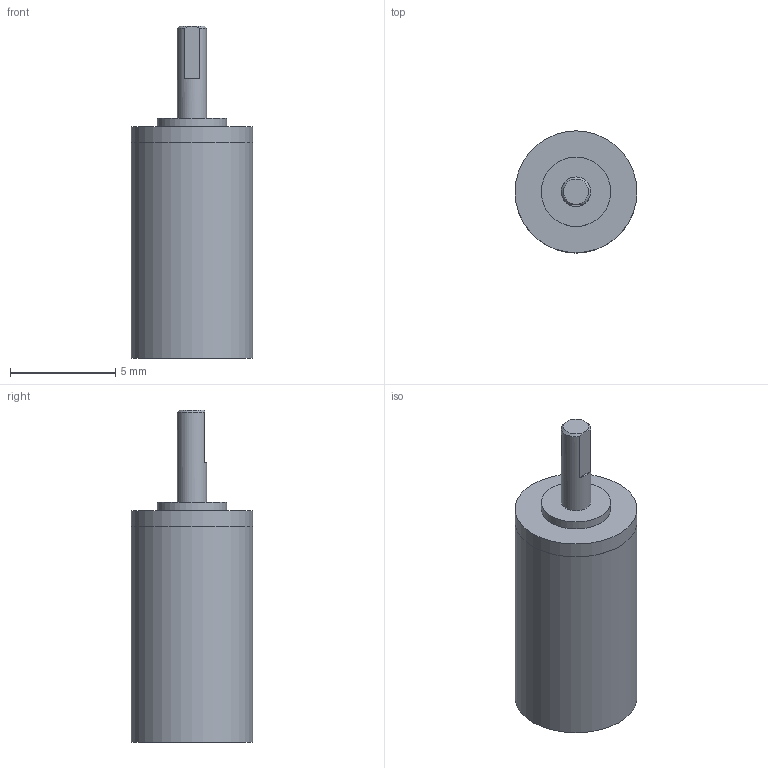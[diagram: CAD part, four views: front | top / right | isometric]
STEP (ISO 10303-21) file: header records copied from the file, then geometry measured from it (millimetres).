
FILE_DESCRIPTION(/* description */ (''),/* implementation_level */ '2;1');
FILE_NAME(/* name */ '06-A_2.stp',/* time_stamp */ '2016-09-30T07:54:35+02:00',/* author */ ('DR. FRITZ FAULHABER GmbH & Co. KG'),/* organization */ ('DR. FRITZ FAULHABER GmbH & Co. KG'),/* preprocessor_version */ 'ST-DEVELOPER v16',/* originating_system */ 'SIEMENS PLM Software NX 10.0',/* authorisation */ '');
FILE_SCHEMA (('AUTOMOTIVE_DESIGN { 1 0 10303 214 3 1 1 1 }'));
Length unit declared in the file: millimetre
Products named in the file (1): H00001145_A
Bounding box: 5.8 x 5.8 x 15.8 mm (x, y, z)
Volume: 243.5 mm3; surface area: 326 mm2
Topology: 1 solids, 1 shells, 18 faces, 30 edges, 20 vertices
Faces by surface type: plane 10, cylinder 7, cone 1
Full cylindrical faces by diameter (mm): 1.4 x1, 1.6 x1, 3.3 x1, 5 x1, 5.799 x1, 5.8 x2
Entity records: 412 total; most frequent: DIRECTION 73, CARTESIAN_POINT 73, ORIENTED_EDGE 42, AXIS2_PLACEMENT_3D 35, EDGE_LOOP 31, FACE_BOUND 26, EDGE_CURVE 21, ADVANCED_FACE 18
